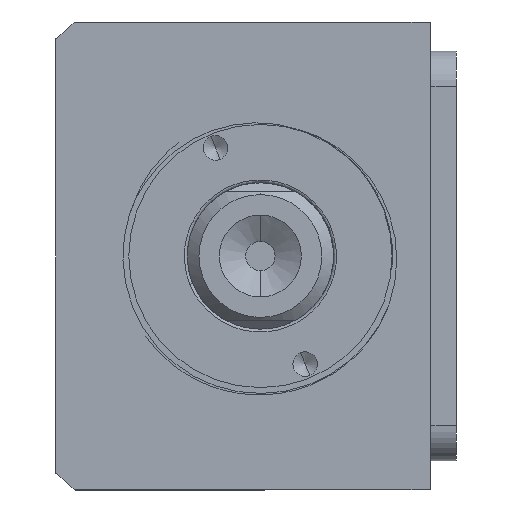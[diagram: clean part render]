
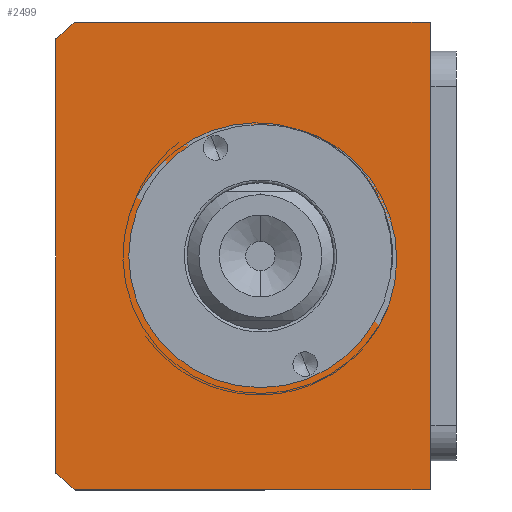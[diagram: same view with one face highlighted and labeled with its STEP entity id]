
A CAD part, front view. The second image highlights one B-rep face of the part: STEP entity #2499.
In plain terms, the highlighted planar face has unit normal (0, -1, 0) as drawn and (0, 0, 1) by its records, which use the part's own axes.
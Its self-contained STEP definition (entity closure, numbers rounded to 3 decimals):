
#25 = CARTESIAN_POINT ( 'NONE',  ( -40., -11.507, 100. ) ) ;
#434 = VERTEX_POINT ( 'NONE', #6686 ) ;
#445 = ORIENTED_EDGE ( 'NONE', *, *, #5379, .F. ) ;
#591 = DIRECTION ( 'NONE',  ( 0., 1., 0. ) ) ;
#634 = CARTESIAN_POINT ( 'NONE',  ( -40., -11.507, 100. ) ) ;
#688 = PLANE ( 'NONE',  #3880 ) ;
#800 = CARTESIAN_POINT ( 'NONE',  ( 0., -40.507, 100. ) ) ;
#876 = ORIENTED_EDGE ( 'NONE', *, *, #2904, .F. ) ;
#1264 = VERTEX_POINT ( 'NONE', #8108 ) ;
#1277 = DIRECTION ( 'NONE',  ( 1., 0., 0. ) ) ;
#1445 = EDGE_CURVE ( 'NONE', #8483, #1477, #7705, .T. ) ;
#1477 = VERTEX_POINT ( 'NONE', #9341 ) ;
#1593 = DIRECTION ( 'NONE',  ( 1., 0., 0. ) ) ;
#1776 = ORIENTED_EDGE ( 'NONE', *, *, #4627, .T. ) ;
#1950 = VECTOR ( 'NONE', #591, 1000. ) ;
#2499 = ADVANCED_FACE ( 'NONE', ( #8479, #6405 ), #688, .T. ) ;
#2557 = CARTESIAN_POINT ( 'NONE',  ( 37.094, -75.507, 100. ) ) ;
#2904 = EDGE_CURVE ( 'NONE', #434, #1264, #8601, .T. ) ;
#3050 = VECTOR ( 'NONE', #9162, 1000. ) ;
#3082 = ORIENTED_EDGE ( 'NONE', *, *, #5996, .T. ) ;
#3187 = ORIENTED_EDGE ( 'NONE', *, *, #4874, .T. ) ;
#3432 = AXIS2_PLACEMENT_3D ( 'NONE', #8299, #3610, #9088 ) ;
#3591 = DIRECTION ( 'NONE',  ( 0., 0., 1. ) ) ;
#3610 = DIRECTION ( 'NONE',  ( 0., 0., 1. ) ) ;
#3688 = AXIS2_PLACEMENT_3D ( 'NONE', #9229, #4533, #10013 ) ;
#3722 = EDGE_CURVE ( 'NONE', #9969, #5845, #10166, .T. ) ;
#3800 = CIRCLE ( 'NONE', #9605, 51. ) ;
#3823 = CARTESIAN_POINT ( 'NONE',  ( -40., -72.145, 100. ) ) ;
#3880 = AXIS2_PLACEMENT_3D ( 'NONE', #8629, #4712, #1277 ) ;
#3931 = VECTOR ( 'NONE', #4146, 1000. ) ;
#3953 = ORIENTED_EDGE ( 'NONE', *, *, #3722, .T. ) ;
#4064 = LINE ( 'NONE', #9951, #3050 ) ;
#4088 = CARTESIAN_POINT ( 'NONE',  ( 40., -72.145, 100. ) ) ;
#4146 = DIRECTION ( 'NONE',  ( 0., -1., 0. ) ) ;
#4297 = EDGE_CURVE ( 'NONE', #5845, #7193, #4784, .T. ) ;
#4517 = CIRCLE ( 'NONE', #3432, 22.5 ) ;
#4533 = DIRECTION ( 'NONE',  ( 0., 0., 1. ) ) ;
#4627 = EDGE_CURVE ( 'NONE', #6524, #8483, #3800, .T. ) ;
#4712 = DIRECTION ( 'NONE',  ( 0., 0., 1. ) ) ;
#4741 = DIRECTION ( 'NONE',  ( -1., 0., 0. ) ) ;
#4757 = CARTESIAN_POINT ( 'NONE',  ( 40., -11.507, 100. ) ) ;
#4784 = CIRCLE ( 'NONE', #7480, 51. ) ;
#4874 = EDGE_CURVE ( 'NONE', #7193, #6524, #4064, .T. ) ;
#5379 = EDGE_CURVE ( 'NONE', #1264, #434, #4517, .T. ) ;
#5713 = ORIENTED_EDGE ( 'NONE', *, *, #4297, .T. ) ;
#5845 = VERTEX_POINT ( 'NONE', #3823 ) ;
#5996 = EDGE_CURVE ( 'NONE', #1477, #9969, #9838, .T. ) ;
#6292 = DIRECTION ( 'NONE',  ( 0., 0., 1. ) ) ;
#6405 = FACE_OUTER_BOUND ( 'NONE', #9323, .T. ) ;
#6516 = CARTESIAN_POINT ( 'NONE',  ( -37.094, -75.507, 100. ) ) ;
#6524 = VERTEX_POINT ( 'NONE', #2557 ) ;
#6686 = CARTESIAN_POINT ( 'NONE',  ( 22.5, -40.507, 100. ) ) ;
#7025 = EDGE_LOOP ( 'NONE', ( #876, #445 ) ) ;
#7193 = VERTEX_POINT ( 'NONE', #6516 ) ;
#7480 = AXIS2_PLACEMENT_3D ( 'NONE', #800, #6292, #1593 ) ;
#7705 = LINE ( 'NONE', #4757, #1950 ) ;
#7742 = VECTOR ( 'NONE', #4741, 1000. ) ;
#8021 = CARTESIAN_POINT ( 'NONE',  ( -40., -11.507, 100. ) ) ;
#8108 = CARTESIAN_POINT ( 'NONE',  ( -22.5, -40.507, 100. ) ) ;
#8277 = CARTESIAN_POINT ( 'NONE',  ( 0., -40.507, 100. ) ) ;
#8299 = CARTESIAN_POINT ( 'NONE',  ( 0., -40.507, 100. ) ) ;
#8479 = FACE_BOUND ( 'NONE', #7025, .T. ) ;
#8483 = VERTEX_POINT ( 'NONE', #4088 ) ;
#8601 = CIRCLE ( 'NONE', #3688, 22.5 ) ;
#8629 = CARTESIAN_POINT ( 'NONE',  ( 0., 0., 100. ) ) ;
#9062 = DIRECTION ( 'NONE',  ( 1., 0., 0. ) ) ;
#9088 = DIRECTION ( 'NONE',  ( 1., 0., 0. ) ) ;
#9162 = DIRECTION ( 'NONE',  ( 1., 0., 0. ) ) ;
#9229 = CARTESIAN_POINT ( 'NONE',  ( 0., -40.507, 100. ) ) ;
#9323 = EDGE_LOOP ( 'NONE', ( #3953, #5713, #3187, #1776, #9628, #3082 ) ) ;
#9341 = CARTESIAN_POINT ( 'NONE',  ( 40., -11.507, 100. ) ) ;
#9605 = AXIS2_PLACEMENT_3D ( 'NONE', #8277, #3591, #9062 ) ;
#9628 = ORIENTED_EDGE ( 'NONE', *, *, #1445, .T. ) ;
#9838 = LINE ( 'NONE', #25, #7742 ) ;
#9951 = CARTESIAN_POINT ( 'NONE',  ( -40., -75.507, 100. ) ) ;
#9969 = VERTEX_POINT ( 'NONE', #634 ) ;
#10013 = DIRECTION ( 'NONE',  ( 1., 0., 0. ) ) ;
#10166 = LINE ( 'NONE', #8021, #3931 ) ;
